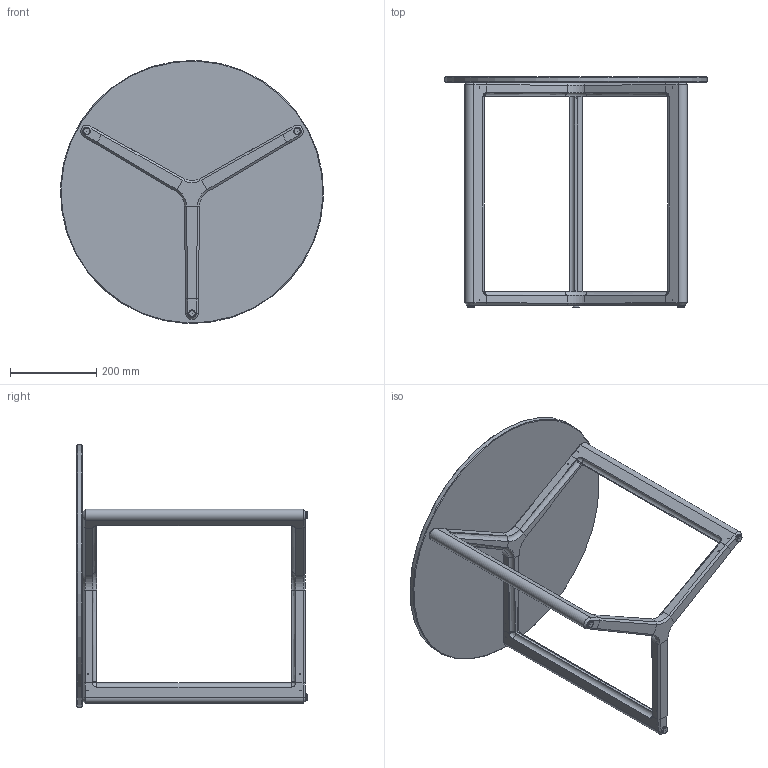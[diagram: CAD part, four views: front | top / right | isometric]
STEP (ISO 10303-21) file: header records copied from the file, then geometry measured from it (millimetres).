
FILE_DESCRIPTION(/* description */ ('SPANNER, SIDE TABLE, 24''''X 22''''H'),/* implementation_level */ '2;1');
FILE_NAME(/* name */ '1151-ROUND-GL.stp',/* time_stamp */ '2024-02-20T13:43:27-05:00',/* author */ ('aunderhill'),/* organization */ (''),/* preprocessor_version */ 'ST-DEVELOPER v19.2',/* originating_system */ 'Autodesk Inventor 2023',/* authorisation */ '');
FILE_SCHEMA (('AUTOMOTIVE_DESIGN { 1 0 10303 214 3 1 1 }'));
Length unit declared in the file: inch
Products named in the file (9): 1151; 1151-001; 1150-002; 1151-003; 1150-004; 97506; FA058; GL1224D; HD01-179
Assembly tree (43 placements, depth 3):
  1151
    1151-001
      1150-002  x2
      1151-003  x6
      1150-004  x3
      97506  x3
      FA058  x24
    GL1224D
    HD01-179  x3
Bounding box: 609.15 x 533.4 x 609.15 mm (x, y, z)
Volume: 6693484.7 mm3; surface area: 1066232.9 mm2
Topology: 42 solids, 42 shells, 447 faces, 846 edges, 534 vertices
Faces by surface type: plane 213, cylinder 109, cone 65, bspline 51, torus 9
Full cylindrical faces by diameter (mm): 1.575 x3, 9.728 x72, 15.875 x3, 609.6 x1
Entity records: 3688 total; most frequent: CARTESIAN_POINT 925, DIRECTION 555, ORIENTED_EDGE 412, AXIS2_PLACEMENT_3D 227, EDGE_CURVE 206, VERTEX_POINT 133, EDGE_LOOP 117, FACE_OUTER_BOUND 102
